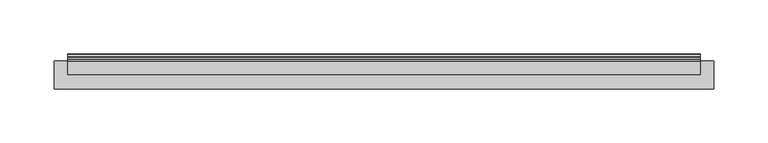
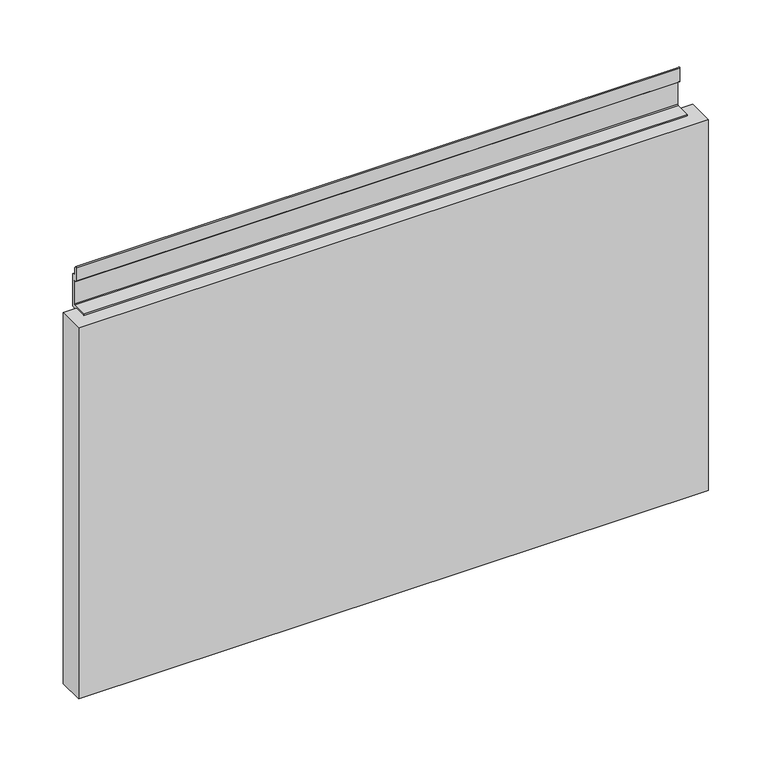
"""IFC4 building model written with IfcOpenShell, lengths in millimetres: furniture geometry, Geiger_GeigerOneCasegoods_WallTileAcceptsShelfandTileAbove : TFL 24Wx 1.25Dx 15H."""

from ifc_helpers import new_model, si_unit, point, frame, frame_2d, origin, origin_with_axes, place, context, project, spatial, polyline, circle_curve, trimmed, segment, composite_curve, outline, extrude, source, transform, mapped, element, save


def furniture_f51cd963(model_context):
    return source(origin(), model_context, "Body", "SweptSolid", [
        extrude(outline(polyline([(609.6, -6.4008), (609.6, -32.4008), (0.0, -32.4008), (0.0, -6.4008), (609.6, -6.4008)])), origin_with_axes(), (0.0, 0.0, 1.0), 380.0),
        extrude(outline(composite_curve([segment(polyline([(-2.8956, 32.2904), (-2.8956, 39.2246), (-3.7084, 40.012), (-5.6134, 40.012), (-6.4008, 40.8248), (-6.4008, 72.524), (-5.1054, 72.524), (-3.5052, 70.9238), (-3.5052, 46.3366), (-2.6924, 45.5238), (-0.8128, 45.5238), (0.0, 44.7364), (0.0, 31.322107)]), True, "CONTINUOUS"), segment(trimmed(circle_curve(frame_2d((-0.7983167, 31.322107)), 0.7983167), [point((0.0, 31.322107))], [point((-1.3628118, 30.7576118))], False, "CARTESIAN"), True, "CONTINUOUS"), segment(polyline([(-1.3628118, 30.7576118), (-2.8956, 32.2904)]), True, "CONTINUOUS")], self_intersect=False)), frame((483.6, 0.0, 0.0), z_axis=(1.0, 0.0, 0.0), x_axis=(0.0, 1.0, 0.0)), (0.0, 0.0, 1.0), 76.0),
        extrude(outline(composite_curve([segment(polyline([(-2.8956, 32.2904), (-2.8956, 39.2246), (-3.7084, 40.012), (-5.6134, 40.012), (-6.4008, 40.8248), (-6.4008, 72.524), (-5.1054, 72.524), (-3.5052, 70.9238), (-3.5052, 46.3366), (-2.6924, 45.5238), (-0.8128, 45.5238), (0.0, 44.7364), (0.0, 31.3203565)]), True, "CONTINUOUS"), segment(trimmed(circle_curve(frame_2d((-0.7975916, 31.3203565)), 0.7975916), [point((0.0, 31.3203565))], [point((-1.361574, 30.756374))], False, "CARTESIAN"), True, "CONTINUOUS"), segment(polyline([(-1.361574, 30.756374), (-2.8956, 32.2904)]), True, "CONTINUOUS")], self_intersect=False)), frame((50.0, 0.0, 0.0), z_axis=(1.0, 0.0, 0.0), x_axis=(0.0, 1.0, 0.0)), (0.0, 0.0, 1.0), 76.0),
        extrude(outline(composite_curve([segment(polyline([(-3.5052, 420.2336), (-3.5052, 413.2994), (-2.7178, 412.512), (-0.8128, 412.512), (0.0, 411.6992), (0.0, 378.3998), (-2.6924, 378.3998), (-3.5052, 377.6124), (-3.5052, 363.8964), (-2.6924, 363.109), (0.0, 363.109), (0.0, 360.188), (-5.6134, 360.188), (-6.4008, 361.0008), (-6.4008, 380.0), (-18.9992, 380.0), (-18.9992, 381.6002), (-3.7084, 381.6002), (-2.8956, 382.3876), (-2.8956, 406.2128), (-3.7084, 407.0002), (-5.6134, 407.0002), (-6.4008, 407.813), (-6.4008, 421.2012527)]), True, "CONTINUOUS"), segment(trimmed(circle_curve(frame_2d((-5.6022181, 421.2012527)), 0.7985819), [point((-6.4008, 421.2012527))], [point((-5.0375354, 421.7659354))], False, "CARTESIAN"), True, "CONTINUOUS"), segment(polyline([(-5.0375354, 421.7659354), (-3.5052, 420.2336)]), True, "CONTINUOUS")], self_intersect=False)), frame((12.5, 0.0, 0.0), z_axis=(1.0, 0.0, 0.0), x_axis=(0.0, 1.0, 0.0)), (0.0, 0.0, 1.0), 584.6),
    ])


if __name__ == "__main__":
    model = new_model("IFC4")
    model_context = context("Model", 3, world=origin())
    ifc_project = project(units=[si_unit("LENGTHUNIT", "METRE", prefix="MILLI")], contexts=[model_context])
    site = spatial("IfcSite", under=ifc_project)
    building = spatial("IfcBuilding", under=site)
    placement = place(None, origin())
    furniture_shape = furniture_f51cd963(model_context)
    element("IfcFurniture", 1, ObjectType="Geiger_GeigerOneCasegoods_WallTileAcceptsShelfandTileAbove : TFL 24Wx 1.25Dx 15H", at=placement, inside=building, context=model_context, shape_type="MappedRepresentation", body=[
        mapped(furniture_shape, transform((0.0, 0.0, 0.0), x_axis=(1.0, 0.0, 0.0), y_axis=(0.0, 1.0, 0.0), z_axis=(0.0, 0.0, 1.0))),
    ])
    save(model, "model.ifc")
